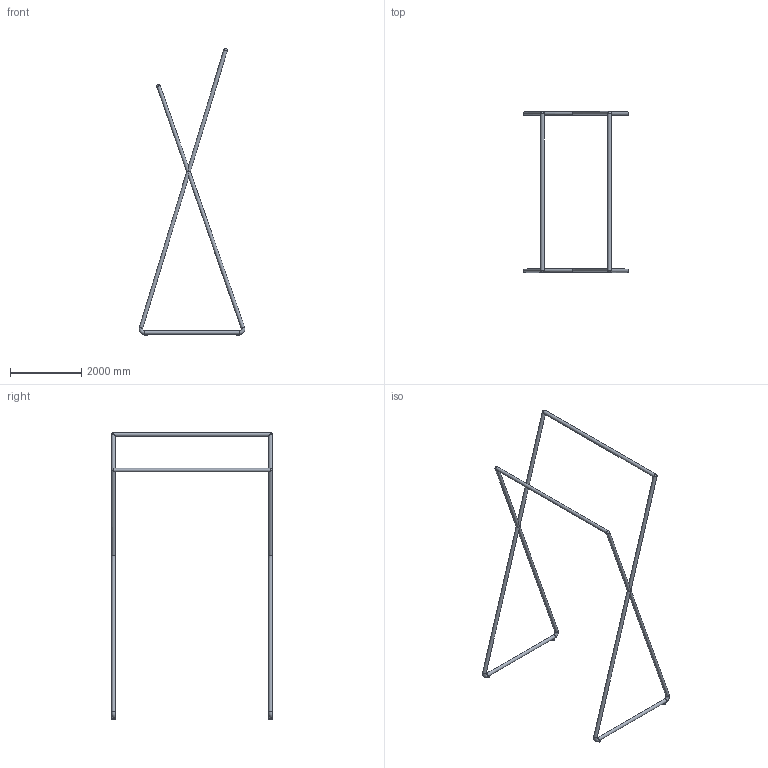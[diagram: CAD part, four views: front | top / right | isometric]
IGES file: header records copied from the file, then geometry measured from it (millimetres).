
Start section: Data from Parasolid IGES Translator 22.0.50, Copyright(c) 2006 Siemens P LM Software. All Rights Reserved.
Global section: file name: noorth_DARMA_H80_D30_W45_7318.igs; native system: By Siemens PLM Incorporated; preprocessor: XPlus GENERIC/IGES 22.0.50; author: Noname; organization: Noname; date: 20251123.110645; units: metre
Bounding box: 2966.29 x 4500 x 8030 mm (x, y, z)
Volume: 355690422.6 mm3; surface area: 14241962.9 mm2
Topology: 5 solids, 5 shells, 46 faces, 125 edges, 81 vertices
Faces by surface type: sphere 18, cylinder 16, plane 8, torus 4
Full cylindrical faces by diameter (mm): 100 x16
